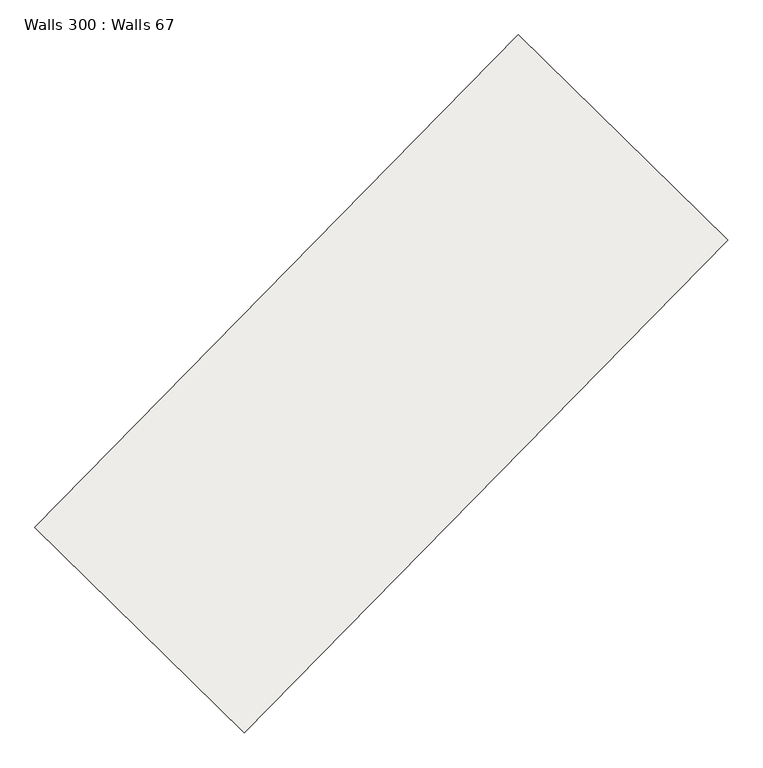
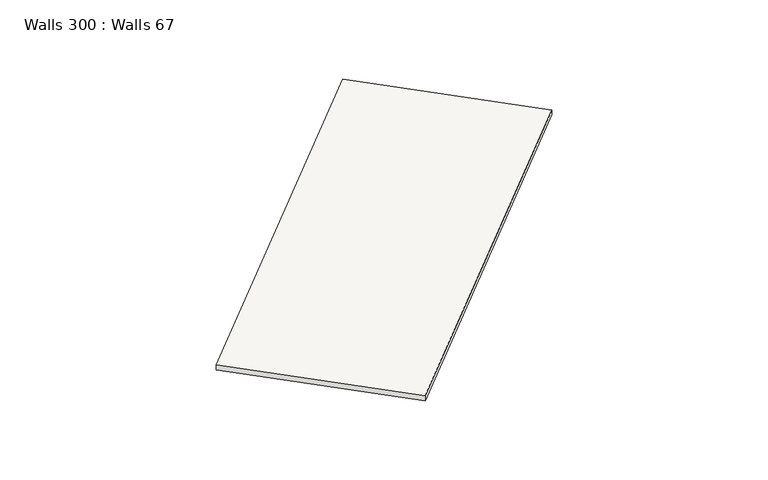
"""IFC4 building model written with IfcOpenShell, lengths in millimetres: slab geometry, Walls 300 : Walls 67."""

from ifc_helpers import new_model, si_unit, frame, origin, place, context, project, spatial, polyline, outline, extrude, source, transform, mapped, element, save


def walls_300_walls_67_5d82e75b(model_context):
    return source(origin(), model_context, "Body", "SweptSolid", [
        extrude(outline(polyline([(-50.0, 0.0), (50.0, 0.0), (-40.0, -8700.0000009), (-140.0, -8700.0000009), (-50.0, 0.0)])), frame((24424.2368422, -134456.1306855, 638400.0), z_axis=(-0.7137361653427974, 0.7004146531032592, 0.0), x_axis=(0.0, 0.0, 1.0)), (0.0, 0.0, 1.0), 3699.999995),
    ])


if __name__ == "__main__":
    model = new_model("IFC4")
    model_context = context("Model", 3, world=origin())
    ifc_project = project(units=[si_unit("LENGTHUNIT", "METRE", prefix="MILLI")], contexts=[model_context])
    site = spatial("IfcSite", under=ifc_project)
    building = spatial("IfcBuilding", under=site)
    placement = place(None, origin())
    walls_300_walls_67_shape = walls_300_walls_67_5d82e75b(model_context)
    element("IfcSlab", 1, ObjectType="Walls 300 : Walls 67", at=placement, inside=building, context=model_context, shape_type="MappedRepresentation", body=[
        mapped(walls_300_walls_67_shape, transform((0.0, 0.0, 0.0), x_axis=(1.0, 0.0, 0.0), y_axis=(0.0, 1.0, 0.0), z_axis=(0.0, 0.0, 1.0))),
    ])
    save(model, "model.ifc")
